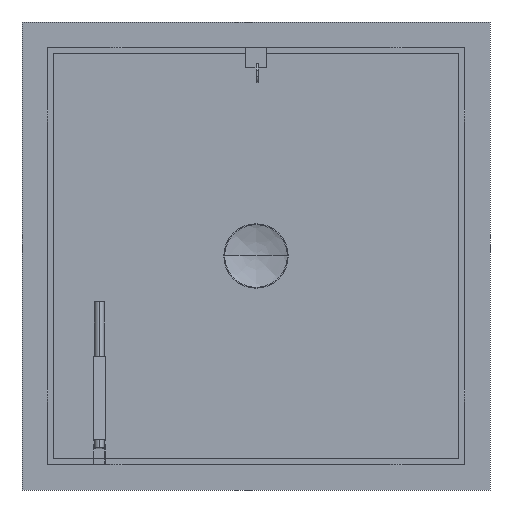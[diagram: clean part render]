
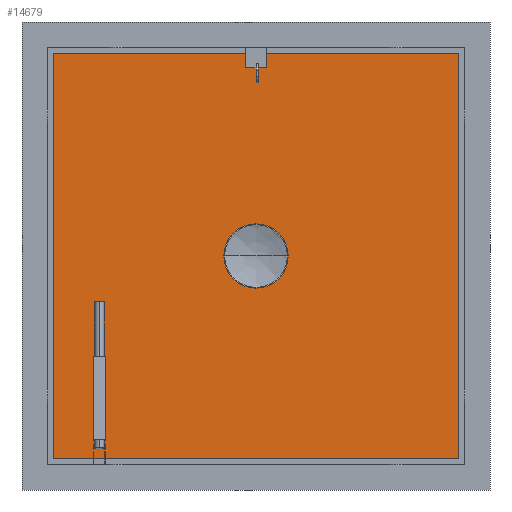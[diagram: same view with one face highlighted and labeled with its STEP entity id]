
A CAD part, front view. The second image highlights one B-rep face of the part: STEP entity #14679.
In plain terms, the highlighted planar face has unit normal (0, -1, 0).
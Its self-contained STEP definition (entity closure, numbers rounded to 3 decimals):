
#5844=DIRECTION('',(0.,0.,-1.));
#5845=VECTOR('',#5844,1048.);
#5846=CARTESIAN_POINT('',(524.,74.,515.));
#5847=LINE('',#5846,#5845);
#5852=CARTESIAN_POINT('',(0.,74.,0.));
#5853=DIRECTION('',(0.,-1.,0.));
#5854=DIRECTION('',(-1.,0.,0.));
#5855=AXIS2_PLACEMENT_3D('',#5852,#5853,#5854);
#5857=CARTESIAN_POINT('',(0.,74.,0.));
#5858=DIRECTION('',(0.,-1.,0.));
#5859=DIRECTION('',(1.,0.,0.));
#5860=AXIS2_PLACEMENT_3D('',#5857,#5858,#5859);
#5862=DIRECTION('',(0.,0.,-1.));
#5863=VECTOR('',#5862,30.);
#5864=CARTESIAN_POINT('',(0.,74.,445.));
#5865=LINE('',#5864,#5863);
#5866=DIRECTION('',(1.,0.,0.));
#5867=VECTOR('',#5866,5.);
#5868=CARTESIAN_POINT('',(0.,74.,415.));
#5869=LINE('',#5868,#5867);
#5870=DIRECTION('',(0.,0.,-1.));
#5871=VECTOR('',#5870,30.);
#5872=CARTESIAN_POINT('',(5.,74.,445.));
#5873=LINE('',#5872,#5871);
#5874=DIRECTION('',(1.,0.,0.));
#5875=VECTOR('',#5874,5.);
#5876=CARTESIAN_POINT('',(0.,74.,445.));
#5877=LINE('',#5876,#5875);
#5878=DIRECTION('',(-1.,0.,0.));
#5879=VECTOR('',#5878,1048.);
#5880=CARTESIAN_POINT('',(524.,74.,-533.));
#5881=LINE('',#5880,#5879);
#5886=DIRECTION('',(0.,0.,1.));
#5887=VECTOR('',#5886,1048.);
#5888=CARTESIAN_POINT('',(-524.,74.,-533.));
#5889=LINE('',#5888,#5887);
#5894=DIRECTION('',(1.,0.,0.));
#5895=VECTOR('',#5894,1048.);
#5896=CARTESIAN_POINT('',(-524.,74.,515.));
#5897=LINE('',#5896,#5895);
#11571=CARTESIAN_POINT('',(524.,74.,515.));
#11572=CARTESIAN_POINT('',(524.,74.,-533.));
#11573=VERTEX_POINT('',#11571);
#11574=VERTEX_POINT('',#11572);
#11575=CARTESIAN_POINT('',(-524.,74.,-533.));
#11576=VERTEX_POINT('',#11575);
#11577=CARTESIAN_POINT('',(-524.,74.,515.));
#11578=VERTEX_POINT('',#11577);
#11617=CARTESIAN_POINT('',(0.,74.,445.));
#11618=VERTEX_POINT('',#11617);
#11620=CARTESIAN_POINT('',(0.,74.,415.));
#11622=VERTEX_POINT('',#11620);
#11623=CARTESIAN_POINT('',(5.,74.,445.));
#11624=VERTEX_POINT('',#11623);
#11626=CARTESIAN_POINT('',(5.,74.,415.));
#11628=VERTEX_POINT('',#11626);
#11629=CARTESIAN_POINT('',(-77.,74.,0.));
#11630=CARTESIAN_POINT('',(77.,74.,0.));
#11631=VERTEX_POINT('',#11629);
#11632=VERTEX_POINT('',#11630);
#14649=CARTESIAN_POINT('',(0.,74.,0.));
#14650=DIRECTION('',(0.,1.,0.));
#14651=DIRECTION('',(1.,0.,0.));
#14652=AXIS2_PLACEMENT_3D('',#14649,#14650,#14651);
#14653=PLANE('',#14652);
#14654=ORIENTED_EDGE('',*,*,#14639,.T.);
#14656=ORIENTED_EDGE('',*,*,#14655,.T.);
#14658=ORIENTED_EDGE('',*,*,#14657,.T.);
#14660=ORIENTED_EDGE('',*,*,#14659,.T.);
#14661=EDGE_LOOP('',(#14654,#14656,#14658,#14660));
#14662=FACE_OUTER_BOUND('',#14661,.F.);
#14664=ORIENTED_EDGE('',*,*,#14663,.T.);
#14666=ORIENTED_EDGE('',*,*,#14665,.T.);
#14667=EDGE_LOOP('',(#14664,#14666));
#14668=FACE_BOUND('',#14667,.F.);
#14670=ORIENTED_EDGE('',*,*,#14669,.T.);
#14672=ORIENTED_EDGE('',*,*,#14671,.T.);
#14674=ORIENTED_EDGE('',*,*,#14673,.F.);
#14676=ORIENTED_EDGE('',*,*,#14675,.F.);
#14677=EDGE_LOOP('',(#14670,#14672,#14674,#14676));
#14678=FACE_BOUND('',#14677,.F.);
#5856=CIRCLE('',#5855,77.);
#5861=CIRCLE('',#5860,77.);
#14639=EDGE_CURVE('',#11573,#11574,#5847,.T.);
#14655=EDGE_CURVE('',#11574,#11576,#5881,.T.);
#14657=EDGE_CURVE('',#11576,#11578,#5889,.T.);
#14659=EDGE_CURVE('',#11578,#11573,#5897,.T.);
#14663=EDGE_CURVE('',#11631,#11632,#5856,.T.);
#14665=EDGE_CURVE('',#11632,#11631,#5861,.T.);
#14669=EDGE_CURVE('',#11618,#11622,#5865,.T.);
#14671=EDGE_CURVE('',#11622,#11628,#5869,.T.);
#14673=EDGE_CURVE('',#11624,#11628,#5873,.T.);
#14675=EDGE_CURVE('',#11618,#11624,#5877,.T.);
#14679=ADVANCED_FACE('',(#14662,#14668,#14678),#14653,.F.);
